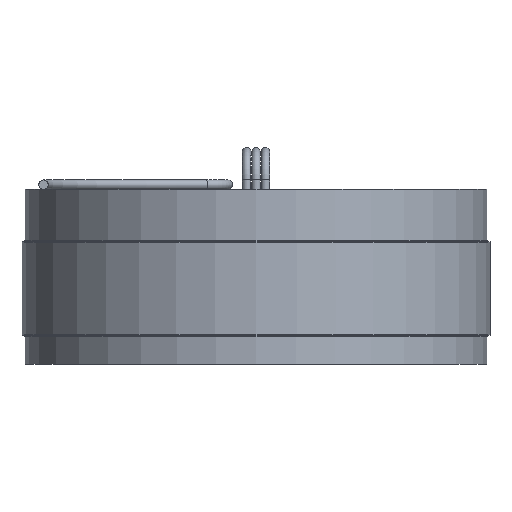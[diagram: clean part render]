
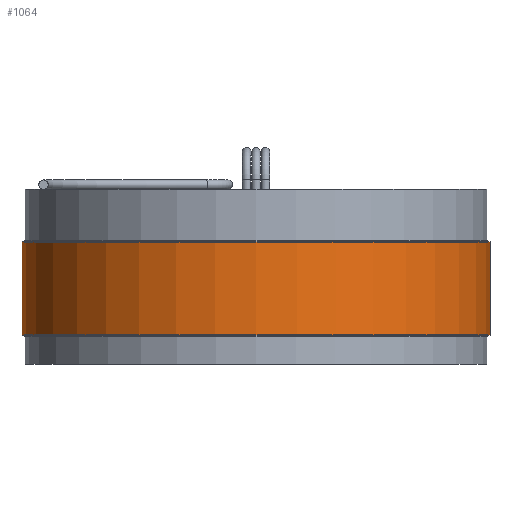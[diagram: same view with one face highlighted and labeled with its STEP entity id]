
A CAD part, front view. The second image highlights one B-rep face of the part: STEP entity #1064.
In plain terms, the highlighted cylindrical face has radius 63.5 mm (diameter 127 mm), a full revolution.
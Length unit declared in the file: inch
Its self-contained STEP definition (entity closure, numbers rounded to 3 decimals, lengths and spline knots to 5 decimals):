
#9 = DIRECTION ( 'NONE',  ( 0., 0., 1. ) ) ;
#16 = CARTESIAN_POINT ( 'NONE',  ( 0., 0., -0.51 ) ) ;
#56 = AXIS2_PLACEMENT_3D ( 'NONE', #852, #740, #1063 ) ;
#110 = EDGE_CURVE ( 'NONE', #577, #577, #1368, .T. ) ;
#190 = CARTESIAN_POINT ( 'NONE',  ( 0., 0., -0.49213 ) ) ;
#230 = EDGE_CURVE ( 'NONE', #788, #788, #687, .T. ) ;
#300 = DIRECTION ( 'NONE',  ( 0., 0., 1. ) ) ;
#400 = AXIS2_PLACEMENT_3D ( 'NONE', #190, #300, #1179 ) ;
#414 = EDGE_LOOP ( 'NONE', ( #1049 ) ) ;
#550 = ORIENTED_EDGE ( 'NONE', *, *, #230, .T. ) ;
#577 = VERTEX_POINT ( 'NONE', #1043 ) ;
#624 = AXIS2_PLACEMENT_3D ( 'NONE', #16, #9, #1106 ) ;
#687 = CIRCLE ( 'NONE', #400, 2.5 ) ;
#740 = DIRECTION ( 'NONE',  ( 0., 0., 1. ) ) ;
#755 = FACE_OUTER_BOUND ( 'NONE', #882, .T. ) ;
#788 = VERTEX_POINT ( 'NONE', #1050 ) ;
#852 = CARTESIAN_POINT ( 'NONE',  ( 0., 0., 0.49213 ) ) ;
#882 = EDGE_LOOP ( 'NONE', ( #550 ) ) ;
#1043 = CARTESIAN_POINT ( 'NONE',  ( 2.5, 0., 0.49213 ) ) ;
#1049 = ORIENTED_EDGE ( 'NONE', *, *, #110, .F. ) ;
#1050 = CARTESIAN_POINT ( 'NONE',  ( 2.5, 0., -0.49213 ) ) ;
#1063 = DIRECTION ( 'NONE',  ( 1., 0., 0. ) ) ;
#1064 = ADVANCED_FACE ( 'NONE', ( #1189, #755 ), #1398, .T. ) ;
#1106 = DIRECTION ( 'NONE',  ( 1., 0., 0. ) ) ;
#1179 = DIRECTION ( 'NONE',  ( 1., 0., 0. ) ) ;
#1189 = FACE_OUTER_BOUND ( 'NONE', #414, .T. ) ;
#1368 = CIRCLE ( 'NONE', #56, 2.5 ) ;
#1398 = CYLINDRICAL_SURFACE ( 'NONE', #624, 2.5 ) ;
